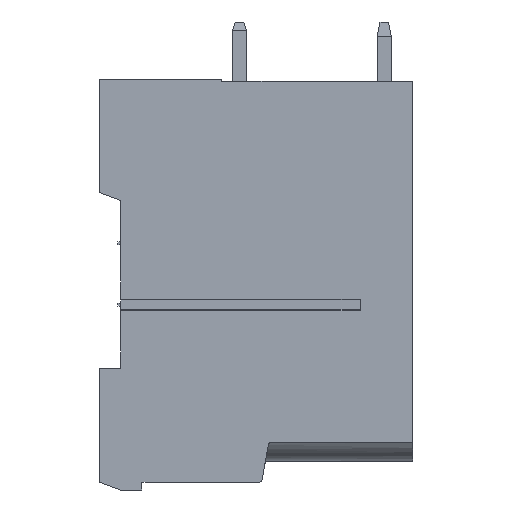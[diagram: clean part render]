
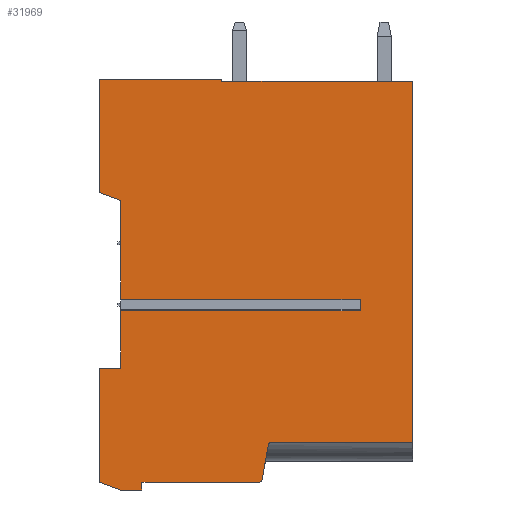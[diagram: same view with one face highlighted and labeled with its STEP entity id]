
A CAD part, left-side view. The second image highlights one B-rep face of the part: STEP entity #31969.
In plain terms, the highlighted planar face has unit normal (-1, 0, 0).
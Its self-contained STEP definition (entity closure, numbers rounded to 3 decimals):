
#4060=DIRECTION('',(0.,0.,1.));
#4061=VECTOR('',#4060,6.926);
#4062=CARTESIAN_POINT('',(-0.363,24.4,-18.234));
#4063=LINE('',#4062,#4061);
#4092=DIRECTION('',(0.,0.,1.));
#4093=VECTOR('',#4092,4.036);
#4094=CARTESIAN_POINT('',(-0.363,24.4,-23.078));
#4095=LINE('',#4094,#4093);
#4152=DIRECTION('',(0.,-1.,0.));
#4153=VECTOR('',#4152,1.5);
#4154=CARTESIAN_POINT('',(-0.363,25.9,-23.078));
#4155=LINE('',#4154,#4153);
#4188=DIRECTION('',(0.,0.,1.));
#4189=VECTOR('',#4188,8.);
#4190=CARTESIAN_POINT('',(-0.363,25.9,-31.078));
#4191=LINE('',#4190,#4189);
#7288=DIRECTION('',(0.,1.,0.));
#7289=VECTOR('',#7288,1.5);
#7290=CARTESIAN_POINT('',(-0.363,22.9,-31.628));
#7291=LINE('',#7290,#7289);
#7300=DIRECTION('',(0.,0.,-1.));
#7301=VECTOR('',#7300,0.55);
#7302=CARTESIAN_POINT('',(-0.363,22.9,-31.078));
#7303=LINE('',#7302,#7301);
#7312=DIRECTION('',(0.,1.,0.));
#7313=VECTOR('',#7312,8.233);
#7314=CARTESIAN_POINT('',(-0.363,14.667,-31.078));
#7315=LINE('',#7314,#7313);
#11020=DIRECTION('',(0.,-0.176,0.984));
#11021=VECTOR('',#11020,2.5);
#11022=CARTESIAN_POINT('',(-0.363,14.47,
-30.913));
#11023=LINE('',#11022,#11021);
#11024=CARTESIAN_POINT('',(-0.363,14.667,-30.878));
#11025=DIRECTION('',(-1.,0.,0.));
#11026=DIRECTION('',(0.,0.,-1.));
#11027=AXIS2_PLACEMENT_3D('',#11024,#11025,#11026);
#11029=DIRECTION('',(0.,-0.939,-0.344));
#11030=VECTOR('',#11029,1.598);
#11031=CARTESIAN_POINT('',(-0.363,25.9,-31.078));
#11032=LINE('',#11031,#11030);
#11033=DIRECTION('',(0.,-0.939,-0.344));
#11034=VECTOR('',#11033,1.598);
#11035=CARTESIAN_POINT('',(-0.363,25.9,-10.758));
#11036=LINE('',#11035,#11034);
#11037=DIRECTION('',(0.,0.,-1.));
#11038=VECTOR('',#11037,7.97);
#11039=CARTESIAN_POINT('',(-0.363,25.9,-2.788));
#11040=LINE('',#11039,#11038);
#11041=DIRECTION('',(0.,1.,0.));
#11042=VECTOR('',#11041,8.6);
#11043=CARTESIAN_POINT('',(-0.363,17.3,-2.788));
#11044=LINE('',#11043,#11042);
#11045=DIRECTION('',(0.,0.,1.));
#11046=VECTOR('',#11045,0.15);
#11047=CARTESIAN_POINT('',(-0.363,17.3,-2.938));
#11048=LINE('',#11047,#11046);
#11049=DIRECTION('',(0.,1.,0.));
#11050=VECTOR('',#11049,13.4);
#11051=CARTESIAN_POINT('',(-0.363,3.9,-2.938));
#11052=LINE('',#11051,#11050);
#11053=DIRECTION('',(0.,0.,1.));
#11054=VECTOR('',#11053,25.35);
#11055=CARTESIAN_POINT('',(-0.363,3.9,-28.288));
#11056=LINE('',#11055,#11054);
#11057=CARTESIAN_POINT('',(-0.363,13.833,-28.488));
#11058=DIRECTION('',(1.,0.,0.));
#11059=DIRECTION('',(0.,0.984,0.176));
#11060=AXIS2_PLACEMENT_3D('',#11057,#11058,#11059);
#11671=DIRECTION('',(0.,-1.,0.));
#11672=VECTOR('',#11671,16.8);
#11673=CARTESIAN_POINT('',(-0.363,24.4,-19.042));
#11674=LINE('',#11673,#11672);
#11717=DIRECTION('',(0.,0.,1.));
#11718=VECTOR('',#11717,0.808);
#11719=CARTESIAN_POINT('',(-0.363,7.6,-19.042));
#11720=LINE('',#11719,#11718);
#11739=DIRECTION('',(0.,1.,0.));
#11740=VECTOR('',#11739,16.8);
#11741=CARTESIAN_POINT('',(-0.363,7.6,-18.234));
#11742=LINE('',#11741,#11740);
#11743=DIRECTION('',(0.,1.,0.));
#11744=VECTOR('',#11743,9.933);
#11745=CARTESIAN_POINT('',(-0.363,3.9,-28.288));
#11746=LINE('',#11745,#11744);
#13987=CARTESIAN_POINT('',(-0.363,3.9,-28.288));
#13988=VERTEX_POINT('',#13987);
#13989=CARTESIAN_POINT('',(-0.363,3.9,-2.938));
#13990=VERTEX_POINT('',#13989);
#14065=CARTESIAN_POINT('',(-0.363,17.3,-2.938));
#14066=VERTEX_POINT('',#14065);
#14067=CARTESIAN_POINT('',(-0.363,25.9,-2.788));
#14068=CARTESIAN_POINT('',(-0.363,25.9,-10.758));
#14069=VERTEX_POINT('',#14067);
#14070=VERTEX_POINT('',#14068);
#14093=CARTESIAN_POINT('',(-0.363,17.3,-2.788));
#14094=VERTEX_POINT('',#14093);
#14095=CARTESIAN_POINT('',(-0.363,14.667,-31.078));
#14096=CARTESIAN_POINT('',(-0.363,14.47,
-30.913));
#14097=VERTEX_POINT('',#14095);
#14098=VERTEX_POINT('',#14096);
#14099=CARTESIAN_POINT('',(-0.363,22.9,-31.078));
#14100=VERTEX_POINT('',#14099);
#14101=CARTESIAN_POINT('',(-0.363,22.9,-31.628));
#14102=VERTEX_POINT('',#14101);
#14103=CARTESIAN_POINT('',(-0.363,24.4,-31.628));
#14104=VERTEX_POINT('',#14103);
#14105=CARTESIAN_POINT('',(-0.363,25.9,-31.078));
#14106=VERTEX_POINT('',#14105);
#14107=CARTESIAN_POINT('',(-0.363,25.9,-23.078));
#14108=VERTEX_POINT('',#14107);
#14109=CARTESIAN_POINT('',(-0.363,24.4,-23.078));
#14110=VERTEX_POINT('',#14109);
#14111=CARTESIAN_POINT('',(-0.363,24.4,-19.042));
#14112=VERTEX_POINT('',#14111);
#14113=CARTESIAN_POINT('',(-0.363,7.6,-19.042));
#14114=VERTEX_POINT('',#14113);
#14115=CARTESIAN_POINT('',(-0.363,7.6,-18.234));
#14116=VERTEX_POINT('',#14115);
#14117=CARTESIAN_POINT('',(-0.363,24.4,-18.234));
#14118=VERTEX_POINT('',#14117);
#14119=CARTESIAN_POINT('',(-0.363,24.4,-11.308));
#14120=VERTEX_POINT('',#14119);
#14121=CARTESIAN_POINT('',(-0.363,13.833,-28.288));
#14122=VERTEX_POINT('',#14121);
#14123=CARTESIAN_POINT('',(-0.363,14.03,
-28.453));
#14124=VERTEX_POINT('',#14123);
#31935=CARTESIAN_POINT('',(-0.363,3.9,-2.788));
#31936=DIRECTION('',(-1.,0.,0.));
#31937=DIRECTION('',(0.,0.,1.));
#31938=AXIS2_PLACEMENT_3D('',#31935,#31936,#31937);
#31939=PLANE('',#31938);
#31940=ORIENTED_EDGE('',*,*,#26870,.F.);
#31941=ORIENTED_EDGE('',*,*,#26851,.F.);
#31942=ORIENTED_EDGE('',*,*,#26836,.T.);
#31943=ORIENTED_EDGE('',*,*,#26821,.T.);
#31944=ORIENTED_EDGE('',*,*,#26806,.T.);
#31946=ORIENTED_EDGE('',*,*,#31945,.F.);
#31947=ORIENTED_EDGE('',*,*,#22500,.T.);
#31948=ORIENTED_EDGE('',*,*,#22467,.T.);
#31949=ORIENTED_EDGE('',*,*,#22374,.T.);
#31951=ORIENTED_EDGE('',*,*,#31950,.T.);
#31953=ORIENTED_EDGE('',*,*,#31952,.T.);
#31955=ORIENTED_EDGE('',*,*,#31954,.T.);
#31956=ORIENTED_EDGE('',*,*,#22358,.T.);
#31957=ORIENTED_EDGE('',*,*,#31930,.F.);
#31958=ORIENTED_EDGE('',*,*,#27043,.F.);
#31959=ORIENTED_EDGE('',*,*,#27011,.F.);
#31960=ORIENTED_EDGE('',*,*,#26997,.F.);
#31961=ORIENTED_EDGE('',*,*,#17790,.F.);
#31962=ORIENTED_EDGE('',*,*,#18098,.F.);
#31964=ORIENTED_EDGE('',*,*,#31963,.T.);
#31966=ORIENTED_EDGE('',*,*,#31965,.F.);
#31967=EDGE_LOOP('',(#31940,#31941,#31942,#31943,#31944,#31946,#31947,#31948,
#31949,#31951,#31953,#31955,#31956,#31957,#31958,#31959,#31960,#31961,#31962,
#31964,#31966));
#31968=FACE_OUTER_BOUND('',#31967,.F.);
#31969=ADVANCED_FACE('',(#31968),#31939,.T.);
#11028=CIRCLE('',#11027,0.2);
#11061=CIRCLE('',#11060,0.2);
#17790=EDGE_CURVE('',#13990,#14066,#11052,.T.);
#18098=EDGE_CURVE('',#13988,#13990,#11056,.T.);
#22358=EDGE_CURVE('',#14118,#14120,#4063,.T.);
#22374=EDGE_CURVE('',#14110,#14112,#4095,.T.);
#22467=EDGE_CURVE('',#14108,#14110,#4155,.T.);
#22500=EDGE_CURVE('',#14106,#14108,#4191,.T.);
#26806=EDGE_CURVE('',#14102,#14104,#7291,.T.);
#26821=EDGE_CURVE('',#14100,#14102,#7303,.T.);
#26836=EDGE_CURVE('',#14097,#14100,#7315,.T.);
#26851=EDGE_CURVE('',#14097,#14098,#11028,.T.);
#26870=EDGE_CURVE('',#14098,#14124,#11023,.T.);
#26997=EDGE_CURVE('',#14066,#14094,#11048,.T.);
#27011=EDGE_CURVE('',#14094,#14069,#11044,.T.);
#27043=EDGE_CURVE('',#14069,#14070,#11040,.T.);
#31930=EDGE_CURVE('',#14070,#14120,#11036,.T.);
#31945=EDGE_CURVE('',#14106,#14104,#11032,.T.);
#31950=EDGE_CURVE('',#14112,#14114,#11674,.T.);
#31952=EDGE_CURVE('',#14114,#14116,#11720,.T.);
#31954=EDGE_CURVE('',#14116,#14118,#11742,.T.);
#31963=EDGE_CURVE('',#13988,#14122,#11746,.T.);
#31965=EDGE_CURVE('',#14124,#14122,#11061,.T.);
